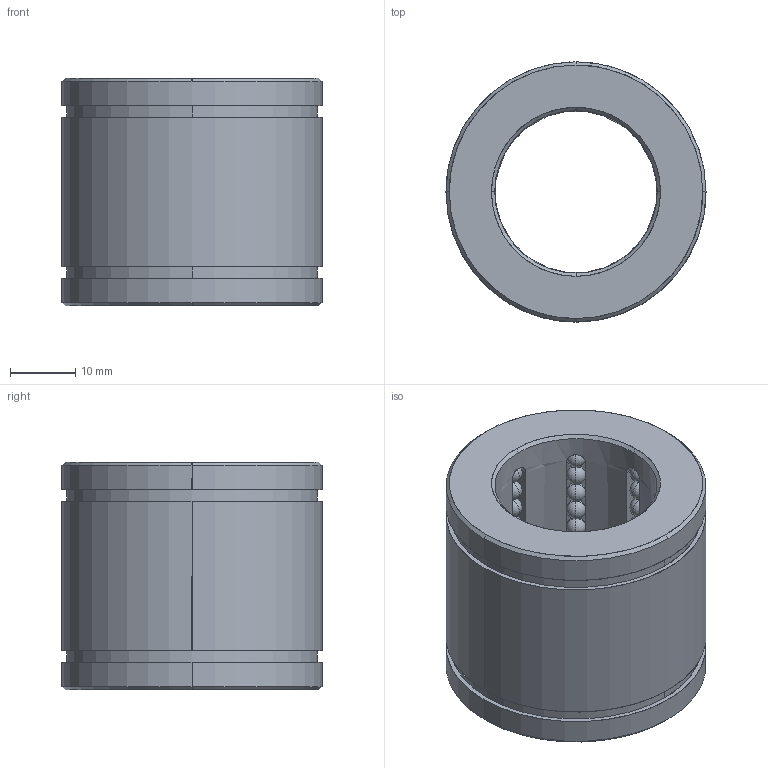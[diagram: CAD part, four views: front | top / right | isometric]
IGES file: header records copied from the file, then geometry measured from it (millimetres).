
Start section: START RECORD GO HERE.
Global section: file name: B8032535.igs; native system: DASSAULT SYSTEMES CATIA V5 R20 - www.3ds.com; preprocessor: CATIA Version 5 Release 20 ; author: Utente; organization: NB04-ASUS; date: 20200419.161616; units: millimetre
Bounding box: 40 x 40 x 35 mm (x, y, z)
Surface area: 12364.5 mm2 (no closed solid volume)
Topology: 0 solids, 0 shells, 362 faces, 1508 edges, 932 vertices
Faces by surface type: revolution 332, plane 30
